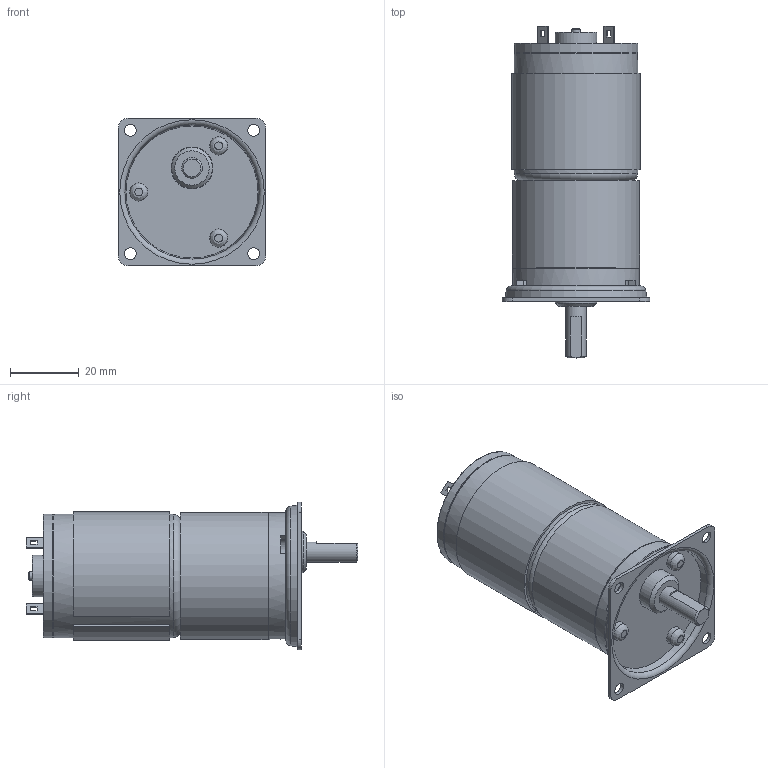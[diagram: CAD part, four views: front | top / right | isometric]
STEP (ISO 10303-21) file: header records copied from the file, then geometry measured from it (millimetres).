
FILE_DESCRIPTION((''),'2;1');
FILE_NAME('C:\Documents and Settings\SSEGAWA\デスクトップ\TP-3640B-PKS-5.STP','2013-07-18T17:17:10',('SSEGAWA'),(''),'Autodesk Inventor 2010','Autodesk Inventor 2010','');
FILE_SCHEMA(('CONFIG_CONTROL_DESIGN'));
Length unit declared in the file: millimetre
Products named in the file (1): tp_3640bce_pks_5_Shrinkwrap_1
Bounding box: 43 x 96.7 x 43 mm (x, y, z)
Volume: 79308.6 mm3; surface area: 15657.2 mm2
Topology: 10 solids, 10 shells, 136 faces, 302 edges, 200 vertices
Faces by surface type: plane 73, bspline 27, cylinder 26, cone 5, torus 5
Full cylindrical faces by diameter (mm): 2.5 x1, 4 x1, 4.5 x1, 5.3 x3, 6 x1, 12 x2, 12.2 x1, 35.6 x1, 36 x2, 36.6 x1, 37 x2
Entity records: 3883 total; most frequent: CARTESIAN_POINT 1024, DIRECTION 543, ORIENTED_EDGE 452, EDGE_CURVE 226, EDGE_LOOP 211, AXIS2_PLACEMENT_3D 209, VERTEX_POINT 173, STYLED_ITEM 146
